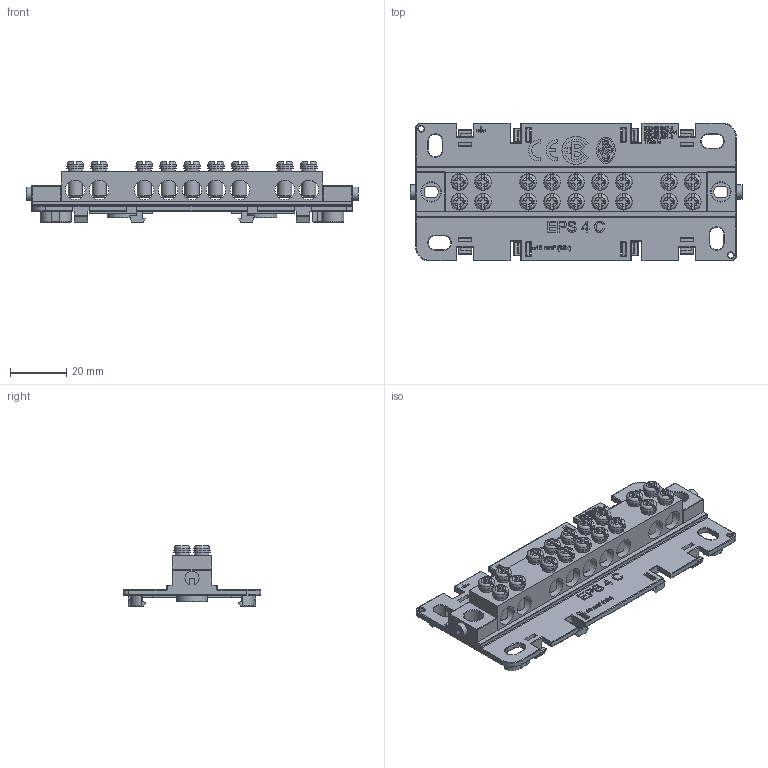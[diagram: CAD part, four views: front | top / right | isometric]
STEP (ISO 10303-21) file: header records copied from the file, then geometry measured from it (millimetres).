
FILE_DESCRIPTION(/* description */ ('Unknown'),/* implementation_level */ '2;1');
FILE_NAME(/* name */ 'EPS 4 C',/* time_stamp */ '2021-07-14T08:03:32+02:00',/* author */ ('Unknown'),/* organization */ ('Unknown'),/* preprocessor_version */ 'ST-DEVELOPER v16.7',/* originating_system */ 'Solid Edge',/* authorisation */ 'Unknown');
FILE_SCHEMA (('AUTOMOTIVE_DESIGN {1 0 10303 214 3 1 1}'));
Products named in the file (1): EPS 4 C
Bounding box: 118 x 49 x 21.6 mm (x, y, z)
Volume: 27609.7 mm3; surface area: 23835.7 mm2
Topology: 1 solids, 7 shells, 1724 faces, 4468 edges, 2864 vertices
Faces by surface type: plane 1107, cylinder 326, torus 146, bspline 93, cone 38, sphere 14
Full cylindrical faces by diameter (mm): 2 x2, 3.242 x2, 5 x42, 5.9 x18, 6.8 x2, 7 x9, 8.2 x2, 11 x2
Entity records: 67647 total; most frequent: CARTESIAN_POINT 15127, ORIENTED_EDGE 8374, DIRECTION 7857, EDGE_CURVE 4187, LINE 2829, VECTOR 2829, VERTEX_POINT 2802, AXIS2_PLACEMENT_3D 2514
